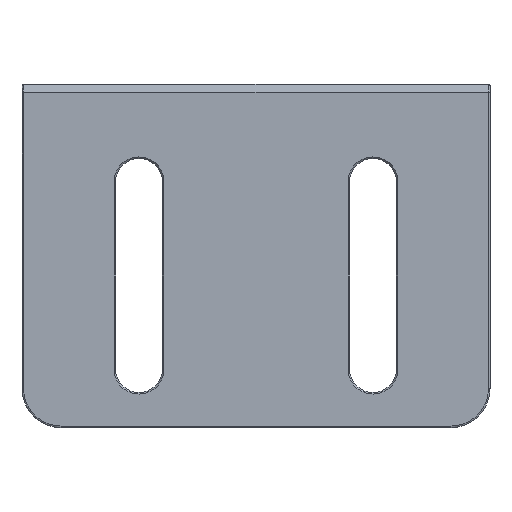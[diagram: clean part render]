
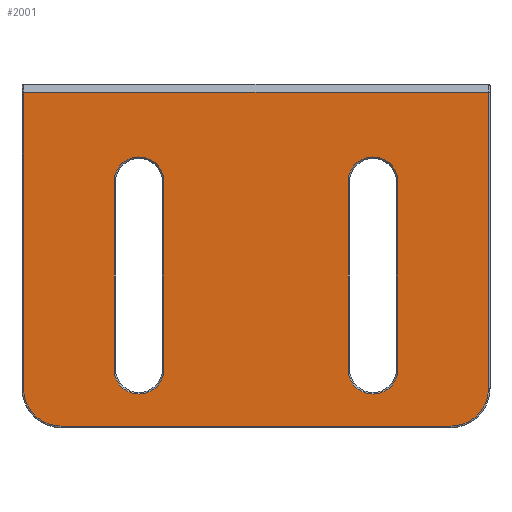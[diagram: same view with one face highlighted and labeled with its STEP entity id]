
A CAD part, front view. The second image highlights one B-rep face of the part: STEP entity #2001.
In plain terms, the highlighted planar face has unit normal (0, -1, 0).
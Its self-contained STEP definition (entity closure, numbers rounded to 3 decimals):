
#34 = ORIENTED_EDGE ( 'NONE', *, *, #1085, .T. ) ;
#49 = DIRECTION ( 'NONE',  ( 0., 0., -1. ) ) ;
#91 = EDGE_CURVE ( 'NONE', #1896, #179, #573, .T. ) ;
#97 = DIRECTION ( 'NONE',  ( 0., 0., 1. ) ) ;
#107 = FACE_OUTER_BOUND ( 'NONE', #1703, .T. ) ;
#144 = EDGE_LOOP ( 'NONE', ( #1980, #2106, #1137, #1234, #1506 ) ) ;
#158 = CARTESIAN_POINT ( 'NONE',  ( -15., -30., -31.5 ) ) ;
#173 = CARTESIAN_POINT ( 'NONE',  ( -15., -30., -34.7 ) ) ;
#179 = VERTEX_POINT ( 'NONE', #2156 ) ;
#190 = DIRECTION ( 'NONE',  ( 0., 0., 1. ) ) ;
#207 = DIRECTION ( 'NONE',  ( 0., -1., 0. ) ) ;
#283 = VERTEX_POINT ( 'NONE', #684 ) ;
#335 = CARTESIAN_POINT ( 'NONE',  ( -29.8, -30., 5. ) ) ;
#361 = DIRECTION ( 'NONE',  ( 0., 0., 1. ) ) ;
#456 = ORIENTED_EDGE ( 'NONE', *, *, #1891, .T. ) ;
#465 = VERTEX_POINT ( 'NONE', #1724 ) ;
#480 = PLANE ( 'NONE',  #2601 ) ;
#518 = CIRCLE ( 'NONE', #1977, 3.2 ) ;
#522 = DIRECTION ( 'NONE',  ( 0., 1., 0. ) ) ;
#523 = CIRCLE ( 'NONE', #717, 4.8 ) ;
#531 = CIRCLE ( 'NONE', #976, 3.2 ) ;
#551 = ORIENTED_EDGE ( 'NONE', *, *, #1432, .T. ) ;
#566 = VECTOR ( 'NONE', #49, 1000. ) ;
#573 = LINE ( 'NONE', #2346, #2226 ) ;
#601 = ORIENTED_EDGE ( 'NONE', *, *, #2432, .T. ) ;
#602 = CARTESIAN_POINT ( 'NONE',  ( 29.8, -30., 4. ) ) ;
#639 = VERTEX_POINT ( 'NONE', #2551 ) ;
#684 = CARTESIAN_POINT ( 'NONE',  ( -25., -30., -38.8 ) ) ;
#717 = AXIS2_PLACEMENT_3D ( 'NONE', #1727, #207, #1520 ) ;
#719 = CARTESIAN_POINT ( 'NONE',  ( -15., -30., -31.5 ) ) ;
#723 = CARTESIAN_POINT ( 'NONE',  ( 15., -30., -31.5 ) ) ;
#732 = ORIENTED_EDGE ( 'NONE', *, *, #1867, .T. ) ;
#779 = CARTESIAN_POINT ( 'NONE',  ( -29.8, -30., 4. ) ) ;
#814 = VERTEX_POINT ( 'NONE', #779 ) ;
#817 = EDGE_CURVE ( 'NONE', #1294, #2553, #2354, .T. ) ;
#837 = EDGE_CURVE ( 'NONE', #814, #2767, #2291, .T. ) ;
#868 = VECTOR ( 'NONE', #1116, 1000. ) ;
#873 = EDGE_CURVE ( 'NONE', #1015, #1294, #2221, .T. ) ;
#876 = EDGE_CURVE ( 'NONE', #639, #1015, #1647, .T. ) ;
#881 = AXIS2_PLACEMENT_3D ( 'NONE', #1688, #2316, #1494 ) ;
#891 = VERTEX_POINT ( 'NONE', #2042 ) ;
#898 = VERTEX_POINT ( 'NONE', #2234 ) ;
#908 = DIRECTION ( 'NONE',  ( 1., 0., 0. ) ) ;
#916 = EDGE_CURVE ( 'NONE', #1598, #891, #2018, .T. ) ;
#938 = DIRECTION ( 'NONE',  ( 0., 0., 1. ) ) ;
#944 = DIRECTION ( 'NONE',  ( 0., 0., 1. ) ) ;
#967 = VECTOR ( 'NONE', #2141, 1000. ) ;
#976 = AXIS2_PLACEMENT_3D ( 'NONE', #719, #2227, #938 ) ;
#980 = VECTOR ( 'NONE', #361, 1000. ) ;
#1005 = ORIENTED_EDGE ( 'NONE', *, *, #2805, .T. ) ;
#1015 = VERTEX_POINT ( 'NONE', #1524 ) ;
#1026 = LINE ( 'NONE', #2153, #967 ) ;
#1067 = CARTESIAN_POINT ( 'NONE',  ( -11.8, -30., -7.5 ) ) ;
#1085 = EDGE_CURVE ( 'NONE', #465, #898, #1472, .T. ) ;
#1100 = AXIS2_PLACEMENT_3D ( 'NONE', #2479, #522, #2254 ) ;
#1116 = DIRECTION ( 'NONE',  ( 0., 0., 1. ) ) ;
#1137 = ORIENTED_EDGE ( 'NONE', *, *, #2766, .T. ) ;
#1164 = DIRECTION ( 'NONE',  ( 0., 1., 0. ) ) ;
#1187 = DIRECTION ( 'NONE',  ( 0., 1., 0. ) ) ;
#1234 = ORIENTED_EDGE ( 'NONE', *, *, #1933, .T. ) ;
#1243 = VERTEX_POINT ( 'NONE', #173 ) ;
#1273 = CARTESIAN_POINT ( 'NONE',  ( -18.2, -30., 5. ) ) ;
#1275 = CARTESIAN_POINT ( 'NONE',  ( 11.8, -30., 5. ) ) ;
#1294 = VERTEX_POINT ( 'NONE', #2508 ) ;
#1298 = VECTOR ( 'NONE', #908, 1000. ) ;
#1324 = CIRCLE ( 'NONE', #1868, 3.2 ) ;
#1348 = CARTESIAN_POINT ( 'NONE',  ( -30., -30., 5. ) ) ;
#1362 = DIRECTION ( 'NONE',  ( 0., 0., -1. ) ) ;
#1363 = EDGE_CURVE ( 'NONE', #283, #2332, #2314, .T. ) ;
#1403 = FACE_BOUND ( 'NONE', #144, .T. ) ;
#1432 = EDGE_CURVE ( 'NONE', #179, #1243, #531, .T. ) ;
#1464 = DIRECTION ( 'NONE',  ( 0., 1., 0. ) ) ;
#1472 = LINE ( 'NONE', #602, #980 ) ;
#1483 = CARTESIAN_POINT ( 'NONE',  ( 15., -30., -7.5 ) ) ;
#1494 = DIRECTION ( 'NONE',  ( 0., 0., 1. ) ) ;
#1506 = ORIENTED_EDGE ( 'NONE', *, *, #876, .T. ) ;
#1513 = ORIENTED_EDGE ( 'NONE', *, *, #916, .T. ) ;
#1520 = DIRECTION ( 'NONE',  ( 0., 0., 1. ) ) ;
#1524 = CARTESIAN_POINT ( 'NONE',  ( 18.2, -30., -7.5 ) ) ;
#1572 = DIRECTION ( 'NONE',  ( 0., 0., -1. ) ) ;
#1598 = VERTEX_POINT ( 'NONE', #2285 ) ;
#1647 = CIRCLE ( 'NONE', #1829, 3.2 ) ;
#1660 = ORIENTED_EDGE ( 'NONE', *, *, #1968, .T. ) ;
#1688 = CARTESIAN_POINT ( 'NONE',  ( -25., -30., -34. ) ) ;
#1703 = EDGE_LOOP ( 'NONE', ( #732, #34, #456, #1878, #601, #2406 ) ) ;
#1711 = VECTOR ( 'NONE', #1572, 1000. ) ;
#1724 = CARTESIAN_POINT ( 'NONE',  ( 29.8, -30., -34. ) ) ;
#1727 = CARTESIAN_POINT ( 'NONE',  ( 25., -30., -34. ) ) ;
#1829 = AXIS2_PLACEMENT_3D ( 'NONE', #1483, #1187, #190 ) ;
#1838 = AXIS2_PLACEMENT_3D ( 'NONE', #723, #2232, #944 ) ;
#1867 = EDGE_CURVE ( 'NONE', #2332, #465, #523, .T. ) ;
#1868 = AXIS2_PLACEMENT_3D ( 'NONE', #158, #1464, #2780 ) ;
#1878 = ORIENTED_EDGE ( 'NONE', *, *, #837, .T. ) ;
#1891 = EDGE_CURVE ( 'NONE', #898, #814, #1026, .T. ) ;
#1896 = VERTEX_POINT ( 'NONE', #1067 ) ;
#1929 = CARTESIAN_POINT ( 'NONE',  ( 15., -30., -34.7 ) ) ;
#1933 = EDGE_CURVE ( 'NONE', #2044, #639, #2550, .T. ) ;
#1960 = CIRCLE ( 'NONE', #881, 4.8 ) ;
#1968 = EDGE_CURVE ( 'NONE', #1243, #1598, #1324, .T. ) ;
#1977 = AXIS2_PLACEMENT_3D ( 'NONE', #2467, #1164, #2692 ) ;
#1980 = ORIENTED_EDGE ( 'NONE', *, *, #873, .T. ) ;
#2001 = ADVANCED_FACE ( 'NONE', ( #1403, #2340, #107 ), #480, .F. ) ;
#2018 = LINE ( 'NONE', #1273, #868 ) ;
#2033 = CARTESIAN_POINT ( 'NONE',  ( 18.2, -30., 5. ) ) ;
#2042 = CARTESIAN_POINT ( 'NONE',  ( -18.2, -30., -7.5 ) ) ;
#2044 = VERTEX_POINT ( 'NONE', #2298 ) ;
#2106 = ORIENTED_EDGE ( 'NONE', *, *, #817, .T. ) ;
#2121 = DIRECTION ( 'NONE',  ( 0., 0., 1. ) ) ;
#2141 = DIRECTION ( 'NONE',  ( -1., 0., 0. ) ) ;
#2153 = CARTESIAN_POINT ( 'NONE',  ( -30., -30., 4. ) ) ;
#2156 = CARTESIAN_POINT ( 'NONE',  ( -11.8, -30., -31.5 ) ) ;
#2192 = CARTESIAN_POINT ( 'NONE',  ( 25., -30., -38.8 ) ) ;
#2221 = LINE ( 'NONE', #2033, #566 ) ;
#2226 = VECTOR ( 'NONE', #1362, 1000. ) ;
#2227 = DIRECTION ( 'NONE',  ( 0., 1., 0. ) ) ;
#2232 = DIRECTION ( 'NONE',  ( 0., 1., 0. ) ) ;
#2234 = CARTESIAN_POINT ( 'NONE',  ( 29.8, -30., 4. ) ) ;
#2254 = DIRECTION ( 'NONE',  ( 0., 0., 1. ) ) ;
#2285 = CARTESIAN_POINT ( 'NONE',  ( -18.2, -30., -31.5 ) ) ;
#2291 = LINE ( 'NONE', #335, #1711 ) ;
#2295 = DIRECTION ( 'NONE',  ( 0., 1., 0. ) ) ;
#2298 = CARTESIAN_POINT ( 'NONE',  ( 11.8, -30., -31.5 ) ) ;
#2314 = LINE ( 'NONE', #2192, #1298 ) ;
#2316 = DIRECTION ( 'NONE',  ( 0., -1., 0. ) ) ;
#2332 = VERTEX_POINT ( 'NONE', #2474 ) ;
#2340 = FACE_BOUND ( 'NONE', #2347, .T. ) ;
#2346 = CARTESIAN_POINT ( 'NONE',  ( -11.8, -30., 5. ) ) ;
#2347 = EDGE_LOOP ( 'NONE', ( #2559, #551, #1660, #1513, #1005 ) ) ;
#2354 = CIRCLE ( 'NONE', #1100, 3.2 ) ;
#2378 = CIRCLE ( 'NONE', #1838, 3.2 ) ;
#2406 = ORIENTED_EDGE ( 'NONE', *, *, #1363, .T. ) ;
#2432 = EDGE_CURVE ( 'NONE', #2767, #283, #1960, .T. ) ;
#2467 = CARTESIAN_POINT ( 'NONE',  ( -15., -30., -7.5 ) ) ;
#2474 = CARTESIAN_POINT ( 'NONE',  ( 25., -30., -38.8 ) ) ;
#2479 = CARTESIAN_POINT ( 'NONE',  ( 15., -30., -31.5 ) ) ;
#2508 = CARTESIAN_POINT ( 'NONE',  ( 18.2, -30., -31.5 ) ) ;
#2550 = LINE ( 'NONE', #1275, #2622 ) ;
#2551 = CARTESIAN_POINT ( 'NONE',  ( 11.8, -30., -7.5 ) ) ;
#2553 = VERTEX_POINT ( 'NONE', #1929 ) ;
#2559 = ORIENTED_EDGE ( 'NONE', *, *, #91, .T. ) ;
#2601 = AXIS2_PLACEMENT_3D ( 'NONE', #1348, #2295, #97 ) ;
#2622 = VECTOR ( 'NONE', #2121, 1000. ) ;
#2653 = CARTESIAN_POINT ( 'NONE',  ( -29.8, -30., -34. ) ) ;
#2692 = DIRECTION ( 'NONE',  ( 0., 0., 1. ) ) ;
#2766 = EDGE_CURVE ( 'NONE', #2553, #2044, #2378, .T. ) ;
#2767 = VERTEX_POINT ( 'NONE', #2653 ) ;
#2780 = DIRECTION ( 'NONE',  ( 0., 0., 1. ) ) ;
#2805 = EDGE_CURVE ( 'NONE', #891, #1896, #518, .T. ) ;
